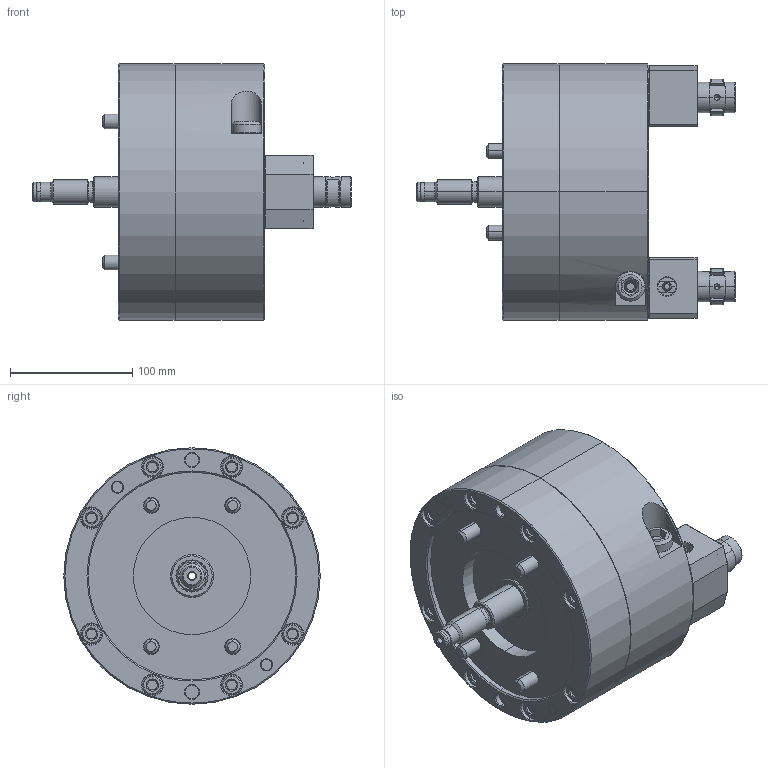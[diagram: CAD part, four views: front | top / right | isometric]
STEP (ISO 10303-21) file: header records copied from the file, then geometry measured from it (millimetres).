
FILE_DESCRIPTION (( 'STEP AP214' ), '1' );
FILE_NAME ('FGT08_OC.STEP', '2019-12-02T04:12:47', ( '' ), ( '' ), 'SwSTEP 2.0', 'SolidWorks 2017', '' );
FILE_SCHEMA (( 'AUTOMOTIVE_DESIGN' ));
Length unit declared in the file: millimetre
Products named in the file (2): 結合; FGT08_OC
Assembly tree (1 placements, depth 2):
  FGT08_OC
    結合
Bounding box: 261 x 210 x 210 mm (x, y, z)
Volume: 4134477.5 mm3; surface area: 250129.2 mm2
Topology: 3 solids, 19 shells, 1510 faces, 3640 edges, 2240 vertices
Faces by surface type: plane 656, cone 358, cylinder 317, bspline 99, torus 80
Entity records: 48878 total; most frequent: CARTESIAN_POINT 14419, ORIENTED_EDGE 7192, DIRECTION 7014, EDGE_CURVE 3596, AXIS2_PLACEMENT_3D 2619, VERTEX_POINT 2240, LINE 1776, VECTOR 1776
